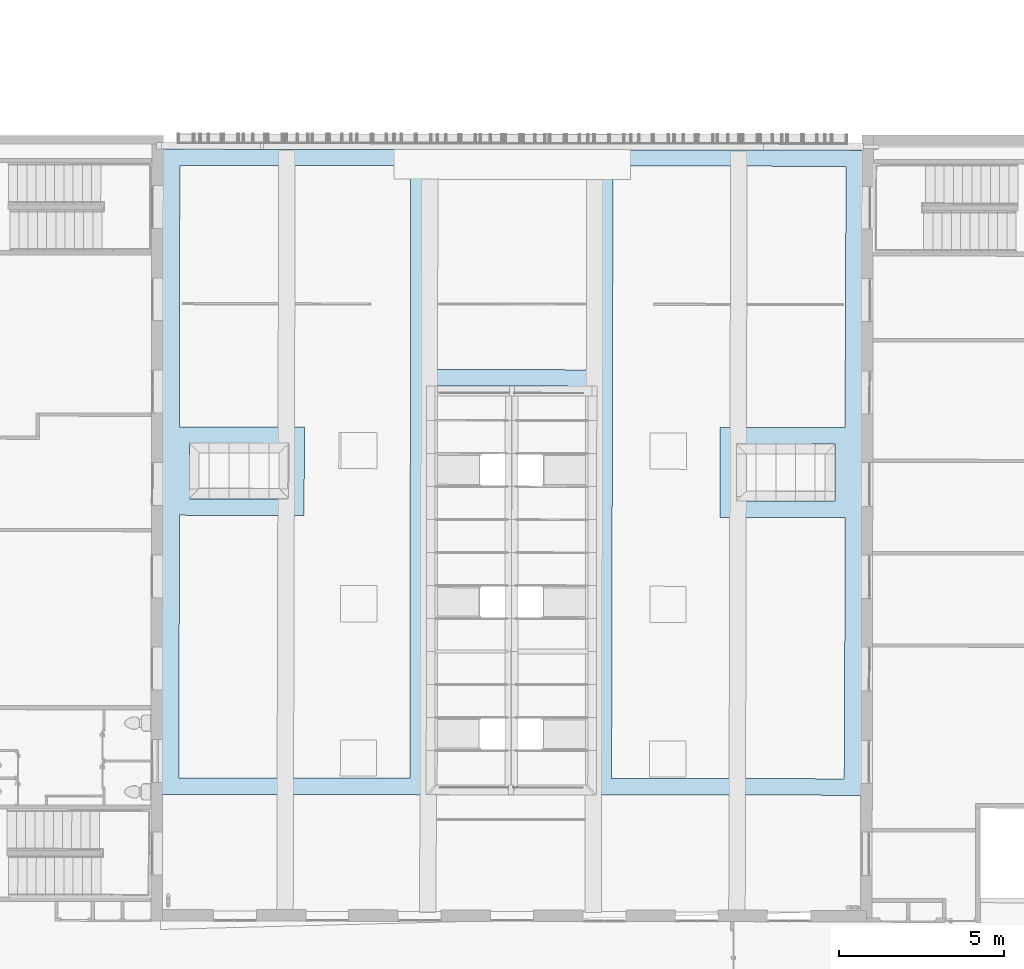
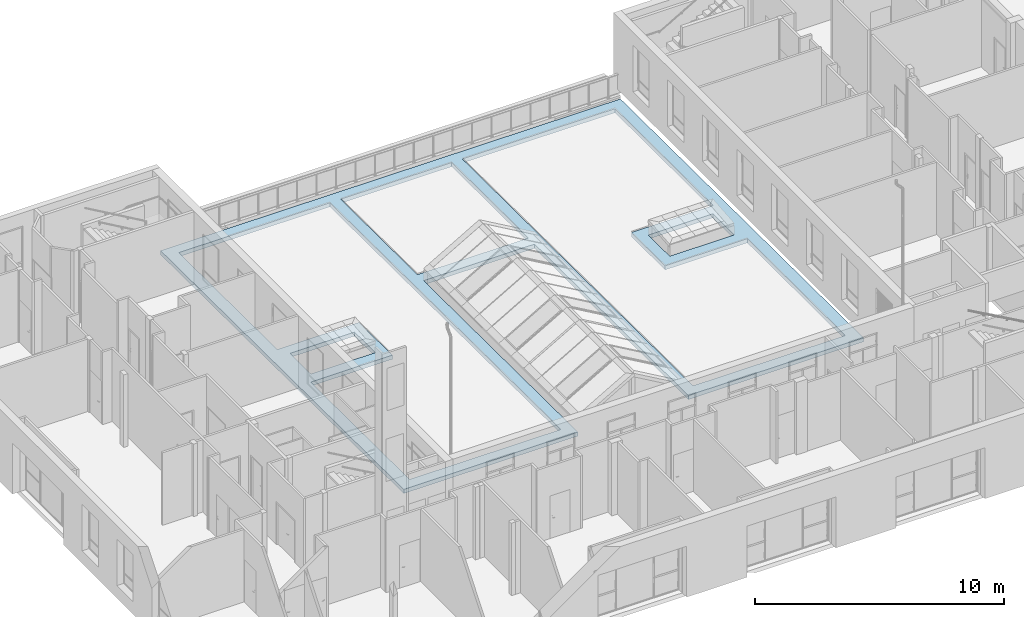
# One storey, part 98 of 101: 1 roof.
"""IFC2X3 building model written with IfcOpenShell, lengths in metres."""

from ifc_helpers import new_model, entity, si_unit, converted_unit, derived_unit, direction, frame, origin, place, context, subcontext, project, spatial, faceted_brep, material, layer, layer_set, type_object, element, save


model = new_model("IFC2X3")

# Units and contexts
model_context = context("Model", 3, precision=1e-05, world=origin(), true_north=direction((6.123233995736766e-17, 1.0)))
body_context = subcontext(model_context, "Body", "Model", "MODEL_VIEW")
ifc_project = project(units=[si_unit("LENGTHUNIT", "METRE"), si_unit("AREAUNIT", "SQUARE_METRE"), converted_unit("PLANEANGLEUNIT", "DEGREE", entity("IfcPlaneAngleMeasure", 0.017453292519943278), si_unit("PLANEANGLEUNIT", "RADIAN"), dimensions=[0, 0, 0, 0, 0, 0, 0]), derived_unit("THERMALTRANSMITTANCEUNIT", [(si_unit("MASSUNIT", "GRAM", prefix="KILO"), 1), (si_unit("THERMODYNAMICTEMPERATUREUNIT", "KELVIN"), -1), (si_unit("TIMEUNIT", "SECOND"), -3)])], contexts=[model_context])

# Site, building, storey
site_placement = place(None, frame((1253.6752467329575, 2072.143113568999, 91.49999999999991), z_axis=(0.0, 0.0, 1.0), x_axis=(0.7237211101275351, 0.6900925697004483, 0.0)))
site = spatial("IfcSite", under=ifc_project, at=site_placement, Name="Surface", CompositionType="ELEMENT")
building_placement = place(site_placement, origin())
building = spatial("IfcBuilding", under=site, at=building_placement, CompositionType="ELEMENT")
storey_placement = place(building_placement, origin())
storey = spatial("IfcBuildingStorey", under=building, at=storey_placement, Name="0- Rdc", CompositionType="ELEMENT", Elevation=-5.764692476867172e-13)

# Roof
ifc_material_1 = material(Name="OMD_Bande Sterile")
ifc_layer_1 = layer(ifc_material_1, 0.05)
ifc_material_2 = material(Name="Maçonnerie - Isolant")
ifc_layer_2 = layer(ifc_material_2, 0.14999999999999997)
ifc_layer_set = layer_set([ifc_layer_1, ifc_layer_2], Name="Toit de base:toit isol 10+étanchéité")
type_product = type_object("IfcTypeProduct", Name="Toit de base:toit isol 10+étanchéité")
roof_placement = place(storey_placement, frame((162.44367355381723, -11.043138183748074, -0.6085357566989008)))
element("IfcRoof", 1, at=roof_placement, inside=storey, type_object=type_product, material=ifc_layer_set, Name="Toit de base:toit isol 10+étanchéité", ObjectType="Toit de base:toit isol 10+étanchéité", ShapeType="NOTDEFINED", context=body_context, shape_type="Brep", body=[
    faceted_brep([(0.0, 14.703574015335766, 0.17412153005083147), (13.516409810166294, 28.843717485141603, 0.0), (28.898347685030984, 14.132394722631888, 0.0), (15.38209102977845, 0.0, 0.1740707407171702), (9.522977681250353, 5.600662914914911, 0.17409008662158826), (18.092927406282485, 14.547800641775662, 0.0638076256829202), (14.388723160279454, 18.095845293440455, 0.06377330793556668), (5.824291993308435, 9.136196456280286, 0.17410229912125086), (22.124215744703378, 8.279124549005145, 0.07933117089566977), (19.967037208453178, 10.34309852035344, 0.07932574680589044), (18.772274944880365, 9.09438339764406, 0.09470935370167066), (20.931017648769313, 7.030864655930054, 0.09470222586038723), (10.134728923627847, 19.740591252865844, 0.0793653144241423), (7.975850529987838, 21.80423969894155, 0.07937244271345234), (6.815651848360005, 20.59050200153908, 0.09431839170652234), (8.97286429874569, 18.528446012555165, 0.09431126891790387), (13.581502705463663, 28.101474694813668, 0.004374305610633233), (8.105111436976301, 22.37236768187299, 0.07492244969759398), (10.84215237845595, 19.756059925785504, 0.07491341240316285), (8.98831175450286, 17.821992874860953, 0.09876078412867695), (6.253928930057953, 20.435759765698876, 0.09876981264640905), (0.7502496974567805, 14.678105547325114, 0.1696694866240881), (5.808348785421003, 9.843123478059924, 0.16965278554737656), (18.639601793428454, 23.266492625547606, 0.0043576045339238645), (28.177641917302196, 14.141653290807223, 0.0043745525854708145), (23.078889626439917, 19.030374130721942, 0.004295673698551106), (10.23027346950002, 5.61625362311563, 0.16963818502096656), (15.327081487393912, 0.744270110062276, 0.16962135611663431), (20.812929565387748, 6.452056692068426, 0.0991521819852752), (18.065177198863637, 9.078603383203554, 0.09916125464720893), (19.951427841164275, 11.050032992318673, 0.07487413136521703), (22.688891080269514, 8.4308465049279, 0.07488101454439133), (22.717052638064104, 19.36890157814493, 0.004344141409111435), (19.001036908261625, 22.92100071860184, 0.004356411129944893), (14.734215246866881, 18.457280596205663, 0.0593225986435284), (18.440482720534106, 14.907259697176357, 0.059356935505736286), (28.898347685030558, 14.1323947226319, 0.20000792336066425), (13.516409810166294, 28.84371748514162, 0.20000792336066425), (0.0, 14.703574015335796, 0.3741294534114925), (5.824291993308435, 9.136196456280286, 0.3741102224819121), (14.388723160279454, 18.095845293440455, 0.26378123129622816), (18.092927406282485, 14.547800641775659, 0.26381554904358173), (9.522977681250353, 5.600662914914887, 0.3740980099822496), (15.38209102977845, 0.0, 0.3740786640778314), (19.967037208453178, 10.343098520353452, 0.2793336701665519), (22.124215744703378, 8.279124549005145, 0.2793390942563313), (20.93101764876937, 7.030864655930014, 0.29471014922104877), (18.77227494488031, 9.094383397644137, 0.29471727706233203), (7.975850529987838, 21.804239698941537, 0.27938036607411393), (10.134728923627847, 19.74059125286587, 0.27937323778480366), (8.97286429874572, 18.528446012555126, 0.29431919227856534), (6.815651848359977, 20.590502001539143, 0.2943263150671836), (8.105111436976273, 22.372367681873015, 0.27493037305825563), (13.58150270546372, 28.10147469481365, 0.20438222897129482), (18.639601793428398, 23.26649262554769, 0.20436552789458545), (5.808348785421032, 9.843123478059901, 0.3696607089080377), (0.7502496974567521, 14.678105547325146, 0.3696774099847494), (6.253928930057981, 20.43575976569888, 0.2987777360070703), (8.98831175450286, 17.82199287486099, 0.29876870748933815), (10.84215237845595, 19.756059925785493, 0.27492133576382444), (23.078889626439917, 19.03037413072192, 0.20430359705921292), (28.177641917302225, 14.141653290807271, 0.20438247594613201), (22.688891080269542, 8.430846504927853, 0.27488893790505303), (19.951427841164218, 11.050032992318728, 0.27488205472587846), (18.065177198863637, 9.078603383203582, 0.29916917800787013), (20.812929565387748, 6.452056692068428, 0.2991601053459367), (15.327081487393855, 0.744270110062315, 0.3696292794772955), (10.230273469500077, 5.616253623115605, 0.3696461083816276), (19.001036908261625, 22.92100071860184, 0.20436433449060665), (22.717052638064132, 19.36890157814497, 0.2043520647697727), (18.440482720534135, 14.907259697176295, 0.259364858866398), (14.734215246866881, 18.45728059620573, 0.2593305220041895)], [[[0, 1, 2, 3, 4, 5, 6, 7], [8, 9, 10, 11], [12, 13, 14, 15], [16, 17, 18, 19, 20, 21, 22, 23], [24, 25, 26, 27, 28, 29, 30, 31], [32, 33, 34, 35]], [[36, 37, 38, 39, 40, 41, 42, 43], [44, 45, 46, 47], [48, 49, 50, 51], [52, 53, 54, 55, 56, 57, 58, 59], [60, 61, 62, 63, 64, 65, 66, 67], [68, 69, 70, 71]], [[37, 36, 2, 1]], [[1, 0, 38, 37]], [[3, 2, 36, 43]], [[44, 9, 8, 45]], [[45, 8, 11, 46]], [[46, 11, 10, 47]], [[9, 44, 47, 10]], [[48, 13, 12, 49]], [[49, 12, 15, 50]], [[50, 15, 14, 51]], [[13, 48, 51, 14]], [[6, 5, 41, 40]], [[4, 3, 43, 42]], [[38, 0, 7, 39]], [[5, 4, 42, 41]], [[6, 40, 39, 7]], [[16, 53, 52, 17]], [[53, 16, 23, 54]], [[54, 23, 22, 55]], [[21, 56, 55, 22]], [[56, 21, 20, 57]], [[57, 20, 19, 58]], [[58, 19, 18, 59]], [[17, 52, 59, 18]], [[24, 61, 60, 25]], [[61, 24, 31, 62]], [[62, 31, 30, 63]], [[63, 30, 29, 64]], [[64, 29, 28, 65]], [[27, 66, 65, 28]], [[66, 27, 26, 67]], [[25, 60, 67, 26]], [[68, 33, 32, 69]], [[69, 32, 35, 70]], [[70, 35, 34, 71]], [[33, 68, 71, 34]]]),
])

save(model, "model.ifc")
